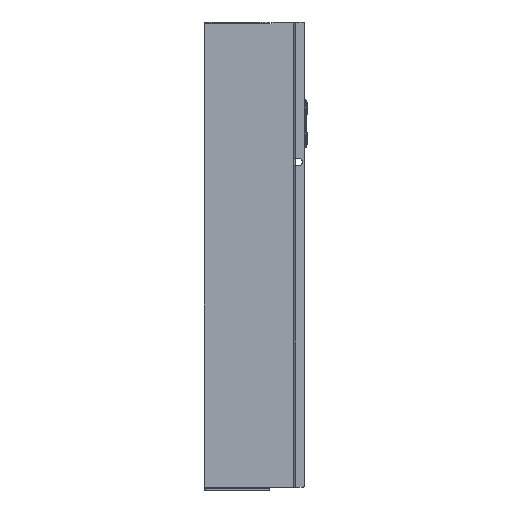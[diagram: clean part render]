
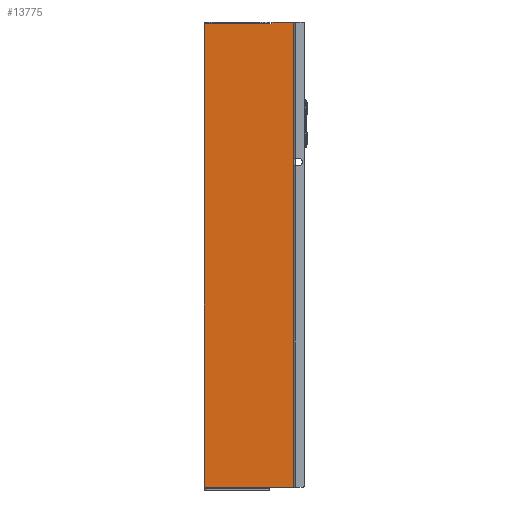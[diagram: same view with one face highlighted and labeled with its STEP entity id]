
A CAD part, left-side view. The second image highlights one B-rep face of the part: STEP entity #13775.
In plain terms, the highlighted planar face has unit normal (-1, 0, 0).
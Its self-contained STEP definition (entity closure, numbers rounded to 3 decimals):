
#207 = EDGE_CURVE ( 'NONE', #6095, #9505, #13792, .T. ) ;
#244 = CARTESIAN_POINT ( 'NONE',  ( 0., 18.7, 193.5 ) ) ;
#349 = DIRECTION ( 'NONE',  ( 0., 0., -1. ) ) ;
#412 = ORIENTED_EDGE ( 'NONE', *, *, #4925, .T. ) ;
#517 = ORIENTED_EDGE ( 'NONE', *, *, #207, .T. ) ;
#563 = DIRECTION ( 'NONE',  ( 0., 0., -1. ) ) ;
#690 = VERTEX_POINT ( 'NONE', #9936 ) ;
#731 = LINE ( 'NONE', #3296, #13376 ) ;
#759 = VERTEX_POINT ( 'NONE', #7007 ) ;
#836 = DIRECTION ( 'NONE',  ( 0., 0., -1. ) ) ;
#927 = VERTEX_POINT ( 'NONE', #3181 ) ;
#1049 = DIRECTION ( 'NONE',  ( 0., 1., 0. ) ) ;
#1054 = DIRECTION ( 'NONE',  ( 0., 0., -1. ) ) ;
#1823 = DIRECTION ( 'NONE',  ( 1., 0., 0. ) ) ;
#2014 = AXIS2_PLACEMENT_3D ( 'NONE', #15213, #7904, #563 ) ;
#2037 = VERTEX_POINT ( 'NONE', #3631 ) ;
#2465 = VERTEX_POINT ( 'NONE', #3338 ) ;
#2715 = LINE ( 'NONE', #8449, #6344 ) ;
#2759 = LINE ( 'NONE', #13779, #5598 ) ;
#3181 = CARTESIAN_POINT ( 'NONE',  ( 0., 20.3, 193.5 ) ) ;
#3296 = CARTESIAN_POINT ( 'NONE',  ( 0., 0., 195. ) ) ;
#3338 = CARTESIAN_POINT ( 'NONE',  ( 0., 75., -194. ) ) ;
#3345 = EDGE_CURVE ( 'NONE', #3557, #927, #2715, .T. ) ;
#3557 = VERTEX_POINT ( 'NONE', #244 ) ;
#3586 = ORIENTED_EDGE ( 'NONE', *, *, #4737, .F. ) ;
#3631 = CARTESIAN_POINT ( 'NONE',  ( 0., 0., -194. ) ) ;
#3677 = ORIENTED_EDGE ( 'NONE', *, *, #13449, .F. ) ;
#3958 = LINE ( 'NONE', #12310, #15023 ) ;
#4017 = AXIS2_PLACEMENT_3D ( 'NONE', #14385, #8404, #1054 ) ;
#4054 = VECTOR ( 'NONE', #7627, 1000. ) ;
#4127 = VECTOR ( 'NONE', #7301, 1000. ) ;
#4737 = EDGE_CURVE ( 'NONE', #6095, #7510, #14341, .T. ) ;
#4748 = DIRECTION ( 'NONE',  ( 0., 0., -1. ) ) ;
#4765 = CARTESIAN_POINT ( 'NONE',  ( 0., 18.3, 195. ) ) ;
#4925 = EDGE_CURVE ( 'NONE', #2465, #2037, #8812, .T. ) ;
#4982 = DIRECTION ( 'NONE',  ( 0., 0., 1. ) ) ;
#5123 = CARTESIAN_POINT ( 'NONE',  ( 0., 18.5, 194.8 ) ) ;
#5163 = ORIENTED_EDGE ( 'NONE', *, *, #8903, .F. ) ;
#5584 = CARTESIAN_POINT ( 'NONE',  ( 0., 75., 193.8 ) ) ;
#5598 = VECTOR ( 'NONE', #349, 1000. ) ;
#5870 = LINE ( 'NONE', #14528, #12015 ) ;
#6095 = VERTEX_POINT ( 'NONE', #5123 ) ;
#6331 = CARTESIAN_POINT ( 'NONE',  ( 0., 18.5, 195. ) ) ;
#6344 = VECTOR ( 'NONE', #1049, 1000. ) ;
#6356 = VERTEX_POINT ( 'NONE', #5584 ) ;
#6468 = EDGE_CURVE ( 'NONE', #7510, #7225, #731, .T. ) ;
#6943 = AXIS2_PLACEMENT_3D ( 'NONE', #15478, #8176, #836 ) ;
#7007 = CARTESIAN_POINT ( 'NONE',  ( 0., 20.5, 193.8 ) ) ;
#7225 = VERTEX_POINT ( 'NONE', #9157 ) ;
#7301 = DIRECTION ( 'NONE',  ( 0., -1., 0. ) ) ;
#7361 = EDGE_CURVE ( 'NONE', #690, #927, #12788, .T. ) ;
#7394 = CIRCLE ( 'NONE', #2014, 0.2 ) ;
#7510 = VERTEX_POINT ( 'NONE', #4765 ) ;
#7627 = DIRECTION ( 'NONE',  ( 0., 0., -1. ) ) ;
#7904 = DIRECTION ( 'NONE',  ( -1., 0., 0. ) ) ;
#8176 = DIRECTION ( 'NONE',  ( -1., 0., 0. ) ) ;
#8394 = ORIENTED_EDGE ( 'NONE', *, *, #3345, .T. ) ;
#8404 = DIRECTION ( 'NONE',  ( -1., 0., 0. ) ) ;
#8449 = CARTESIAN_POINT ( 'NONE',  ( 0., 20.5, 193.5 ) ) ;
#8812 = LINE ( 'NONE', #15606, #11680 ) ;
#8900 = ORIENTED_EDGE ( 'NONE', *, *, #6468, .F. ) ;
#8903 = EDGE_CURVE ( 'NONE', #759, #690, #5870, .T. ) ;
#9157 = CARTESIAN_POINT ( 'NONE',  ( 0., 0., 195. ) ) ;
#9174 = CARTESIAN_POINT ( 'NONE',  ( 0., 18.3, 194.8 ) ) ;
#9263 = FACE_OUTER_BOUND ( 'NONE', #11027, .T. ) ;
#9505 = VERTEX_POINT ( 'NONE', #10701 ) ;
#9513 = ORIENTED_EDGE ( 'NONE', *, *, #7361, .F. ) ;
#9936 = CARTESIAN_POINT ( 'NONE',  ( 0., 20.5, 193.7 ) ) ;
#10397 = DIRECTION ( 'NONE',  ( 0., 0., -1. ) ) ;
#10622 = LINE ( 'NONE', #11001, #4127 ) ;
#10701 = CARTESIAN_POINT ( 'NONE',  ( 0., 18.5, 193.7 ) ) ;
#10774 = DIRECTION ( 'NONE',  ( 0., -1., 0. ) ) ;
#11001 = CARTESIAN_POINT ( 'NONE',  ( 0., 0., 193.8 ) ) ;
#11027 = EDGE_LOOP ( 'NONE', ( #517, #13904, #8394, #9513, #5163, #3677, #15710, #412, #12343, #8900, #3586 ) ) ;
#11299 = EDGE_CURVE ( 'NONE', #6356, #2465, #2759, .T. ) ;
#11680 = VECTOR ( 'NONE', #10774, 1000. ) ;
#11868 = DIRECTION ( 'NONE',  ( 0., -1., 0. ) ) ;
#11883 = EDGE_CURVE ( 'NONE', #2037, #7225, #3958, .T. ) ;
#12008 = EDGE_CURVE ( 'NONE', #3557, #9505, #7394, .T. ) ;
#12015 = VECTOR ( 'NONE', #4748, 1000. ) ;
#12310 = CARTESIAN_POINT ( 'NONE',  ( 0., 0., 195. ) ) ;
#12337 = AXIS2_PLACEMENT_3D ( 'NONE', #9174, #1823, #10397 ) ;
#12343 = ORIENTED_EDGE ( 'NONE', *, *, #11883, .T. ) ;
#12788 = CIRCLE ( 'NONE', #6943, 0.2 ) ;
#13376 = VECTOR ( 'NONE', #11868, 1000. ) ;
#13449 = EDGE_CURVE ( 'NONE', #6356, #759, #10622, .T. ) ;
#13775 = ADVANCED_FACE ( 'NONE', ( #9263 ), #15698, .T. ) ;
#13779 = CARTESIAN_POINT ( 'NONE',  ( 0., 75., 195. ) ) ;
#13792 = LINE ( 'NONE', #6331, #4054 ) ;
#13904 = ORIENTED_EDGE ( 'NONE', *, *, #12008, .F. ) ;
#14341 = CIRCLE ( 'NONE', #12337, 0.2 ) ;
#14385 = CARTESIAN_POINT ( 'NONE',  ( 0., 0., 195. ) ) ;
#14528 = CARTESIAN_POINT ( 'NONE',  ( 0., 20.5, 193.8 ) ) ;
#15023 = VECTOR ( 'NONE', #4982, 1000. ) ;
#15213 = CARTESIAN_POINT ( 'NONE',  ( 0., 18.7, 193.7 ) ) ;
#15478 = CARTESIAN_POINT ( 'NONE',  ( 0., 20.3, 193.7 ) ) ;
#15606 = CARTESIAN_POINT ( 'NONE',  ( 0., 20.5, -194. ) ) ;
#15698 = PLANE ( 'NONE',  #4017 ) ;
#15710 = ORIENTED_EDGE ( 'NONE', *, *, #11299, .T. ) ;
